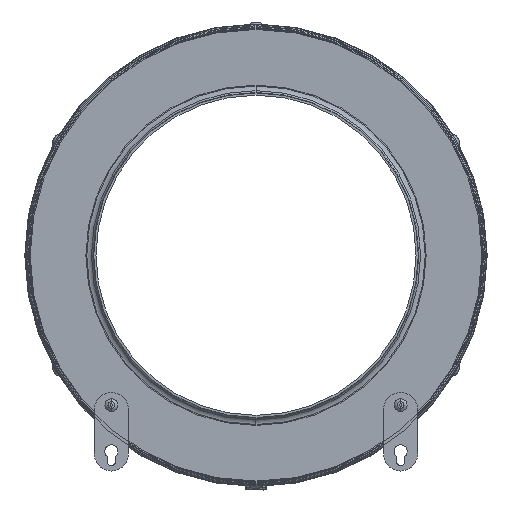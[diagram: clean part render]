
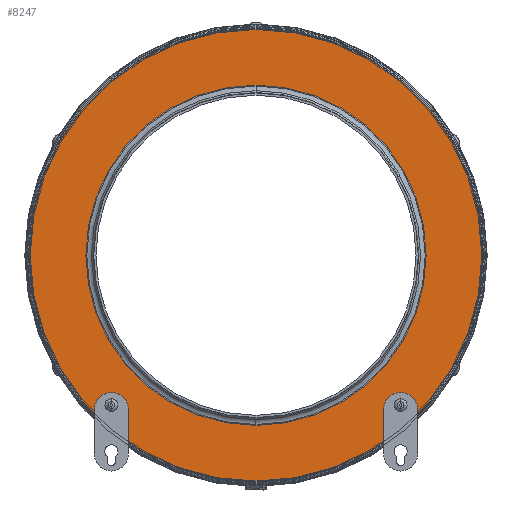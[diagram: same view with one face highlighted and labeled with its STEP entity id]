
A CAD part, left-side view. The second image highlights one B-rep face of the part: STEP entity #8247.
In plain terms, the highlighted planar face has unit normal (-1, 0, 0).
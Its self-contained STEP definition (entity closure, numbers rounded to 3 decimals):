
#7170=CARTESIAN_POINT('',(-812.5,0.,0.));
#7171=DIRECTION('',(1.,0.,0.));
#7172=DIRECTION('',(0.,0.,-1.));
#7173=AXIS2_PLACEMENT_3D('',#7170,#7171,#7172);
#7175=CARTESIAN_POINT('',(-812.5,0.,0.));
#7176=DIRECTION('',(1.,0.,0.));
#7177=DIRECTION('',(0.,0.,1.));
#7178=AXIS2_PLACEMENT_3D('',#7175,#7176,#7177);
#7180=CARTESIAN_POINT('',(-812.5,0.,0.));
#7181=DIRECTION('',(-1.,0.,0.));
#7182=DIRECTION('',(0.,0.,-1.));
#7183=AXIS2_PLACEMENT_3D('',#7180,#7181,#7182);
#7185=CARTESIAN_POINT('',(-812.5,0.,0.));
#7186=DIRECTION('',(-1.,0.,0.));
#7187=DIRECTION('',(0.,0.,1.));
#7188=AXIS2_PLACEMENT_3D('',#7185,#7186,#7187);
#7190=CARTESIAN_POINT('',(-812.5,-110.52,-114.447));
#7191=DIRECTION('',(1.,0.,0.));
#7192=DIRECTION('',(0.,1.,0.));
#7193=AXIS2_PLACEMENT_3D('',#7190,#7191,#7192);
#7195=CARTESIAN_POINT('',(-812.5,-110.52,-114.447));
#7196=DIRECTION('',(1.,0.,0.));
#7197=DIRECTION('',(0.,-1.,0.));
#7198=AXIS2_PLACEMENT_3D('',#7195,#7196,#7197);
#7200=CARTESIAN_POINT('',(-812.5,110.52,-114.447));
#7201=DIRECTION('',(1.,0.,0.));
#7202=DIRECTION('',(0.,1.,0.));
#7203=AXIS2_PLACEMENT_3D('',#7200,#7201,#7202);
#7205=CARTESIAN_POINT('',(-812.5,110.52,-114.447));
#7206=DIRECTION('',(1.,0.,0.));
#7207=DIRECTION('',(0.,-1.,0.));
#7208=AXIS2_PLACEMENT_3D('',#7205,#7206,#7207);
#7738=CARTESIAN_POINT('',(-812.5,113.12,-114.447));
#7740=VERTEX_POINT('',#7738);
#7742=CARTESIAN_POINT('',(-812.5,107.92,-114.447));
#7744=VERTEX_POINT('',#7742);
#7746=CARTESIAN_POINT('',(-812.5,-107.92,-114.447));
#7748=VERTEX_POINT('',#7746);
#7750=CARTESIAN_POINT('',(-812.5,-113.12,-114.447));
#7752=VERTEX_POINT('',#7750);
#7762=CARTESIAN_POINT('',(-812.5,0.,-130.));
#7764=VERTEX_POINT('',#7762);
#7768=CARTESIAN_POINT('',(-812.5,0.,130.));
#7769=VERTEX_POINT('',#7768);
#7770=CARTESIAN_POINT('',(-812.5,0.,173.25));
#7772=VERTEX_POINT('',#7770);
#7776=CARTESIAN_POINT('',(-812.5,0.,-173.25));
#7777=VERTEX_POINT('',#7776);
#8219=CARTESIAN_POINT('',(-812.5,0.,0.));
#8220=DIRECTION('',(1.,0.,0.));
#8221=DIRECTION('',(0.,0.,1.));
#8222=AXIS2_PLACEMENT_3D('',#8219,#8220,#8221);
#8223=PLANE('',#8222);
#8224=ORIENTED_EDGE('',*,*,#8209,.F.);
#8226=ORIENTED_EDGE('',*,*,#8225,.F.);
#8227=EDGE_LOOP('',(#8224,#8226));
#8228=FACE_OUTER_BOUND('',#8227,.F.);
#8230=ORIENTED_EDGE('',*,*,#8229,.F.);
#8232=ORIENTED_EDGE('',*,*,#8231,.F.);
#8233=EDGE_LOOP('',(#8230,#8232));
#8234=FACE_BOUND('',#8233,.F.);
#8236=ORIENTED_EDGE('',*,*,#8235,.F.);
#8238=ORIENTED_EDGE('',*,*,#8237,.F.);
#8239=EDGE_LOOP('',(#8236,#8238));
#8240=FACE_BOUND('',#8239,.F.);
#8242=ORIENTED_EDGE('',*,*,#8241,.F.);
#8244=ORIENTED_EDGE('',*,*,#8243,.F.);
#8245=EDGE_LOOP('',(#8242,#8244));
#8246=FACE_BOUND('',#8245,.F.);
#8247=ADVANCED_FACE('',(#8228,#8234,#8240,#8246),#8223,.F.);
#7174=CIRCLE('',#7173,130.);
#7179=CIRCLE('',#7178,130.);
#7184=CIRCLE('',#7183,173.25);
#7189=CIRCLE('',#7188,173.25);
#7194=CIRCLE('',#7193,2.6);
#7199=CIRCLE('',#7198,2.6);
#7204=CIRCLE('',#7203,2.6);
#7209=CIRCLE('',#7208,2.6);
#8209=EDGE_CURVE('',#7777,#7772,#7184,.T.);
#8225=EDGE_CURVE('',#7772,#7777,#7189,.T.);
#8229=EDGE_CURVE('',#7764,#7769,#7174,.T.);
#8231=EDGE_CURVE('',#7769,#7764,#7179,.T.);
#8235=EDGE_CURVE('',#7748,#7752,#7194,.T.);
#8237=EDGE_CURVE('',#7752,#7748,#7199,.T.);
#8241=EDGE_CURVE('',#7740,#7744,#7204,.T.);
#8243=EDGE_CURVE('',#7744,#7740,#7209,.T.);
